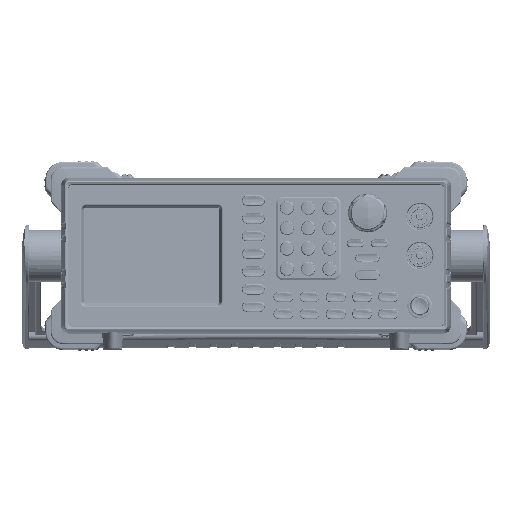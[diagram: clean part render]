
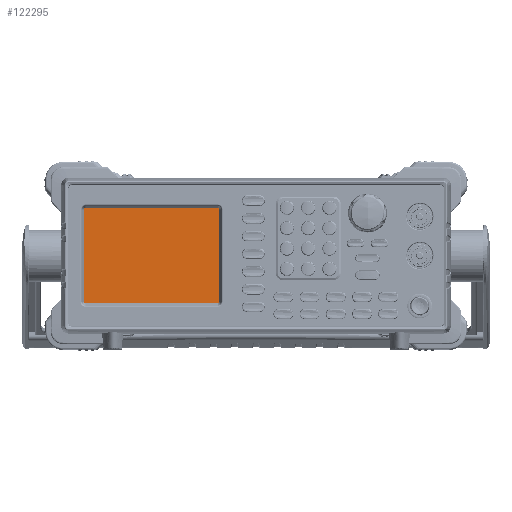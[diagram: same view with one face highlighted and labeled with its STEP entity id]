
A CAD part, top view. The second image highlights one B-rep face of the part: STEP entity #122295.
In plain terms, the highlighted planar face has unit normal (0, 0, 1).
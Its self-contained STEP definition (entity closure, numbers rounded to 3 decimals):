
#112760=DIRECTION('',(0.,1.,0.));
#112761=VECTOR('',#112760,57.5);
#112762=CARTESIAN_POINT('',(-42.5,-28.75,0.));
#112763=LINE('',#112762,#112761);
#112764=DIRECTION('',(1.,0.,0.));
#112765=VECTOR('',#112764,82.5);
#112766=CARTESIAN_POINT('',(-42.5,28.75,0.));
#112767=LINE('',#112766,#112765);
#112768=DIRECTION('',(0.,-1.,0.));
#112769=VECTOR('',#112768,57.5);
#112770=CARTESIAN_POINT('',(40.,28.75,0.));
#112771=LINE('',#112770,#112769);
#112772=DIRECTION('',(-1.,0.,0.));
#112773=VECTOR('',#112772,82.5);
#112774=CARTESIAN_POINT('',(40.,-28.75,0.));
#112775=LINE('',#112774,#112773);
#119968=CARTESIAN_POINT('',(-42.5,-28.75,0.));
#119969=CARTESIAN_POINT('',(-42.5,28.75,0.));
#119970=VERTEX_POINT('',#119968);
#119971=VERTEX_POINT('',#119969);
#119972=CARTESIAN_POINT('',(40.,28.75,0.));
#119973=VERTEX_POINT('',#119972);
#119974=CARTESIAN_POINT('',(40.,-28.75,0.));
#119975=VERTEX_POINT('',#119974);
#122280=CARTESIAN_POINT('',(0.,0.,0.));
#122281=DIRECTION('',(0.,0.,1.));
#122282=DIRECTION('',(1.,0.,0.));
#122283=AXIS2_PLACEMENT_3D('',#122280,#122281,#122282);
#122284=PLANE('',#122283);
#122286=ORIENTED_EDGE('',*,*,#122285,.T.);
#122288=ORIENTED_EDGE('',*,*,#122287,.T.);
#122290=ORIENTED_EDGE('',*,*,#122289,.T.);
#122292=ORIENTED_EDGE('',*,*,#122291,.T.);
#122293=EDGE_LOOP('',(#122286,#122288,#122290,#122292));
#122294=FACE_OUTER_BOUND('',#122293,.F.);
#122295=ADVANCED_FACE('',(#122294),#122284,.T.);
#122285=EDGE_CURVE('',#119970,#119971,#112763,.T.);
#122287=EDGE_CURVE('',#119971,#119973,#112767,.T.);
#122289=EDGE_CURVE('',#119973,#119975,#112771,.T.);
#122291=EDGE_CURVE('',#119975,#119970,#112775,.T.);
